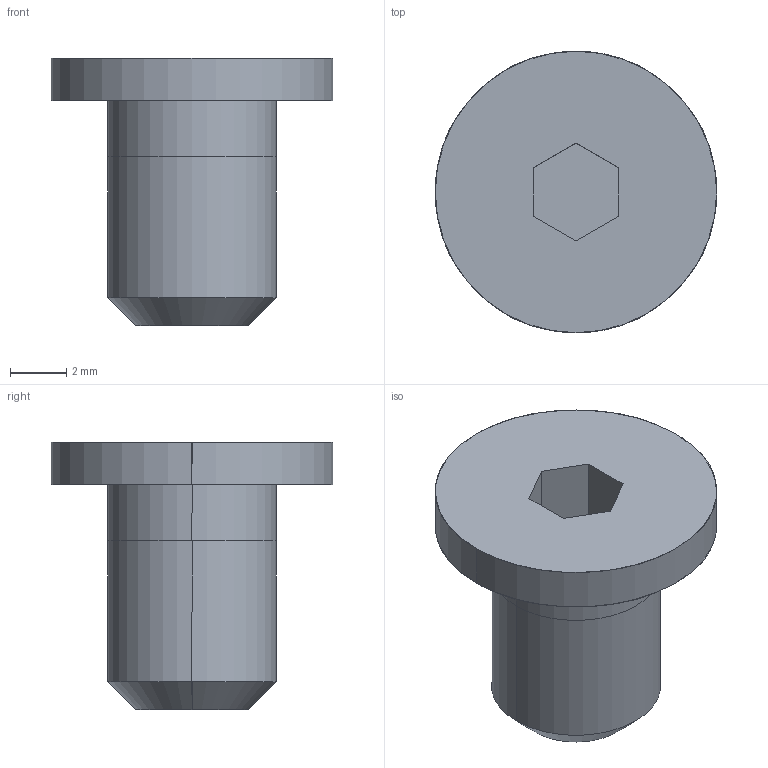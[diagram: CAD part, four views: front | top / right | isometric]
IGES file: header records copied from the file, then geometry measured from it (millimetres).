
Global section: file name: E:\UnigraphicsGraphicData\MISUMI_PRESS-PARTS\IGES\3d_cbss6-8_03499_r00.igs; native system: NX V5.0; preprocessor: UGS NX IGES V5.0; author: MISUMI; date: 20110105.160203; units: millimetre
Bounding box: 10 x 10 x 9.5 mm (x, y, z)
Surface area: 384.7 mm2 (no closed solid volume)
Topology: 0 solids, 0 shells, 18 faces, 100 edges, 100 vertices
Faces by surface type: bspline 18
